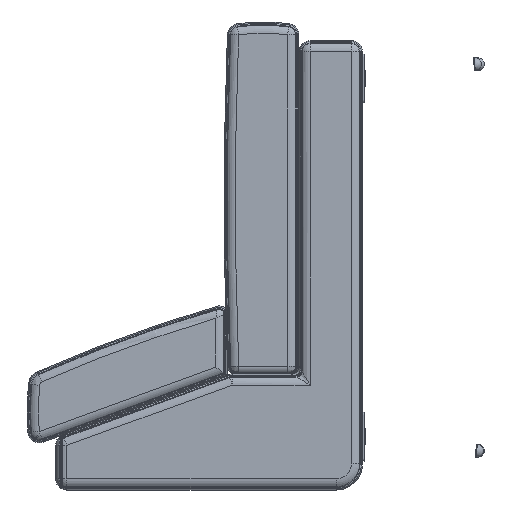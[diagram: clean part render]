
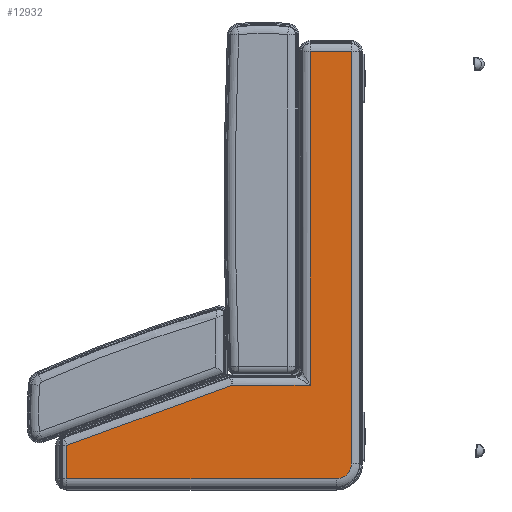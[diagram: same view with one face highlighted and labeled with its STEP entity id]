
A CAD part, left-side view. The second image highlights one B-rep face of the part: STEP entity #12932.
In plain terms, the highlighted planar face has unit normal (-1, 0, 0).
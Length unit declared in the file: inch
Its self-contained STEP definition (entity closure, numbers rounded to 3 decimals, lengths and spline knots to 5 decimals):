
#876=PLANE('',#14753);
#1308=LINE('',#27395,#1853);
#1309=LINE('',#27401,#1854);
#1310=LINE('',#27407,#1855);
#1311=LINE('',#27442,#1856);
#1313=LINE('',#27451,#1858);
#1315=LINE('',#27463,#1860);
#1316=LINE('',#27466,#1861);
#1853=VECTOR('',#18734,0.3937);
#1854=VECTOR('',#18743,0.3937);
#1855=VECTOR('',#18752,0.3937);
#1856=VECTOR('',#18759,0.3937);
#1858=VECTOR('',#18767,0.3937);
#1860=VECTOR('',#18785,0.3937);
#1861=VECTOR('',#18790,0.3937);
#2777=FACE_OUTER_BOUND('',#3710,.T.);
#3710=EDGE_LOOP('',(#11172,#11173,#11174,#11175,#11176,#11177,#11178,#11179));
#4813=CIRCLE('',#14726,1.);
#5946=VERTEX_POINT('',#27387);
#5947=VERTEX_POINT('',#27389);
#5948=VERTEX_POINT('',#27393);
#5949=VERTEX_POINT('',#27399);
#5950=VERTEX_POINT('',#27405);
#5951=VERTEX_POINT('',#27440);
#5954=VERTEX_POINT('',#27448);
#5955=VERTEX_POINT('',#27450);
#7693=EDGE_CURVE('',#5946,#5947,#4813,.T.);
#7696=EDGE_CURVE('',#5948,#5946,#1308,.T.);
#7699=EDGE_CURVE('',#5949,#5948,#1309,.T.);
#7702=EDGE_CURVE('',#5950,#5949,#1310,.T.);
#7705=EDGE_CURVE('',#5951,#5950,#1311,.T.);
#7708=EDGE_CURVE('',#5954,#5955,#1313,.T.);
#7715=EDGE_CURVE('',#5955,#5951,#1315,.T.);
#7717=EDGE_CURVE('',#5947,#5954,#1316,.T.);
#11172=ORIENTED_EDGE('',*,*,#7702,.F.);
#11173=ORIENTED_EDGE('',*,*,#7705,.F.);
#11174=ORIENTED_EDGE('',*,*,#7715,.F.);
#11175=ORIENTED_EDGE('',*,*,#7708,.F.);
#11176=ORIENTED_EDGE('',*,*,#7717,.F.);
#11177=ORIENTED_EDGE('',*,*,#7693,.F.);
#11178=ORIENTED_EDGE('',*,*,#7696,.F.);
#11179=ORIENTED_EDGE('',*,*,#7699,.F.);
#12932=ADVANCED_FACE('',(#2777),#876,.F.);
#14726=AXIS2_PLACEMENT_3D('',#27390,#18726,#18727);
#14753=AXIS2_PLACEMENT_3D('',#27465,#18788,#18789);
#18726=DIRECTION('center_axis',(1.,0.,0.));
#18727=DIRECTION('ref_axis',(0.,-0.707,-0.707));
#18734=DIRECTION('',(0.,0.,-1.));
#18743=DIRECTION('',(0.,-1.,0.));
#18752=DIRECTION('',(0.,0.,1.));
#18759=DIRECTION('',(0.,-1.,0.));
#18767=DIRECTION('',(0.,0.,1.));
#18785=DIRECTION('',(0.,-0.94,0.342));
#18788=DIRECTION('center_axis',(1.,0.,0.));
#18789=DIRECTION('ref_axis',(0.,0.,-1.));
#18790=DIRECTION('',(0.,1.,0.));
#27387=CARTESIAN_POINT('',(183.52525,0.75,-98.02802));
#27389=CARTESIAN_POINT('',(183.52525,1.75,-99.02802));
#27390=CARTESIAN_POINT('Origin',(183.52525,1.75,-98.02802));
#27393=CARTESIAN_POINT('',(183.52525,0.75,-70.52802));
#27395=CARTESIAN_POINT('',(183.52525,0.75,-97.84052));
#27399=CARTESIAN_POINT('',(183.52525,3.5,-70.52802));
#27401=CARTESIAN_POINT('',(183.52525,7.25,-70.52802));
#27405=CARTESIAN_POINT('',(183.52525,3.5,-92.77802));
#27407=CARTESIAN_POINT('',(183.52525,3.5,-97.84052));
#27440=CARTESIAN_POINT('',(183.52525,8.69098,-92.77802));
#27442=CARTESIAN_POINT('',(183.52525,10.59911,-92.77802));
#27448=CARTESIAN_POINT('',(183.52525,19.75,-99.02802));
#27450=CARTESIAN_POINT('',(183.52525,19.75,-96.80318));
#27451=CARTESIAN_POINT('',(183.52525,19.75,-97.84052));
#27463=CARTESIAN_POINT('',(183.52525,16.59595,-95.6552));
#27465=CARTESIAN_POINT('Origin',(183.52525,12.375,-95.90302));
#27466=CARTESIAN_POINT('',(183.52525,8.3125,-99.02802));
